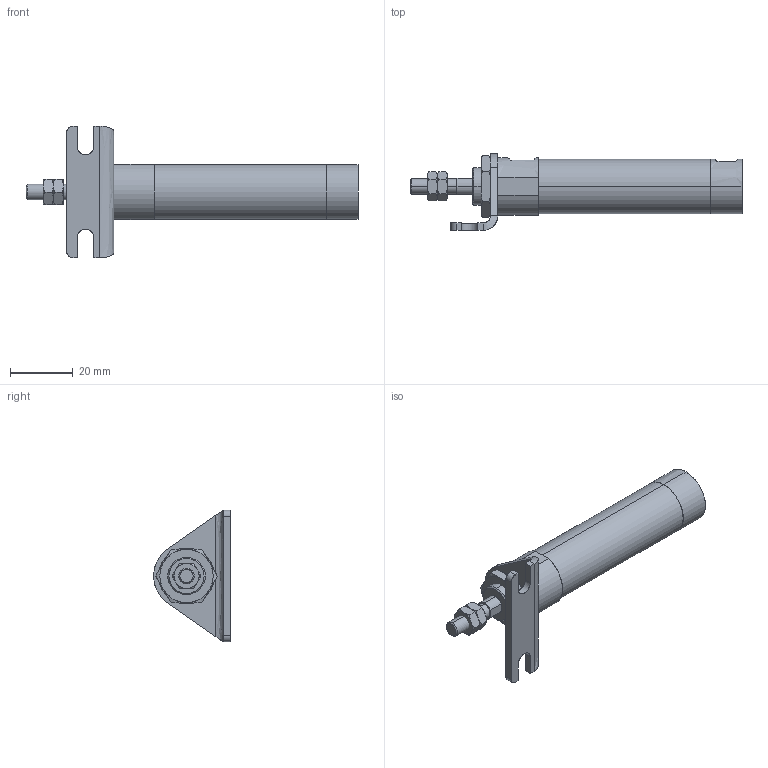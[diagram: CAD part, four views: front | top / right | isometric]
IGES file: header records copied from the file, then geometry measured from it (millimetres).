
Start section: SolidWorks IGES file using analytic representation for surfaces
Global section: file name: C:\Users\Toshiba\Desktop\ZGU2-16-30-L.IGS; native system: SolidWorks 2014; preprocessor: SolidWorks 2014; author: Toshiba; date: 160331.085849; units: millimetre
Bounding box: 106 x 24.5 x 42 mm (x, y, z)
Surface area: 8792.7 mm2 (no closed solid volume)
Topology: 0 solids, 0 shells, 134 faces, 2010 edges, 2006 vertices
Faces by surface type: bspline 94, revolution 40
